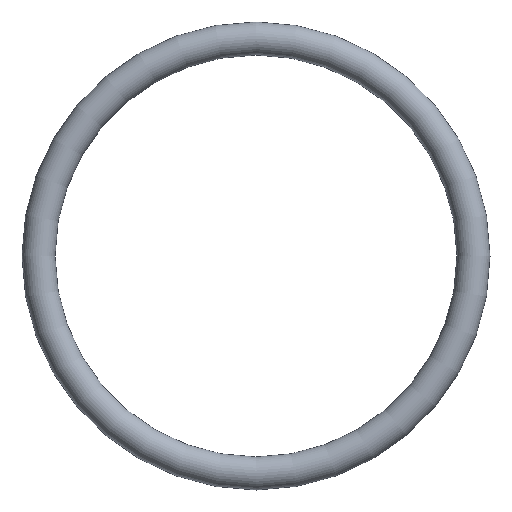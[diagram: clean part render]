
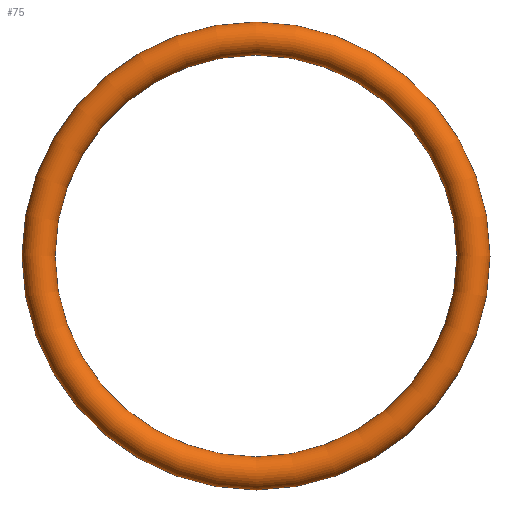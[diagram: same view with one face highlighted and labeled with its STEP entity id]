
A CAD part, front view. The second image highlights one B-rep face of the part: STEP entity #75.
In plain terms, the highlighted toroidal (fillet/blend) face has major radius 23.195 mm and minor radius 1.765 mm.
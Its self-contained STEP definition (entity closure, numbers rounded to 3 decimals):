
#75 = ADVANCED_FACE( '', ( #77 ), #78, .T. );
#77 = FACE_BOUND( '', #79, .T. );
#78 = TOROIDAL_SURFACE( '', #80, 23.195, 1.765 );
#79 = VERTEX_LOOP( '', #81 );
#80 = AXIS2_PLACEMENT_3D( '', #82, #83, #84 );
#81 = VERTEX_POINT( '', #85 );
#82 = CARTESIAN_POINT( '', ( 0., 0., 0. ) );
#83 = DIRECTION( '', ( 0., -1., 0. ) );
#84 = DIRECTION( '', ( 0., 0., -1. ) );
#85 = CARTESIAN_POINT( '', ( 0., 0., -24.96 ) );
